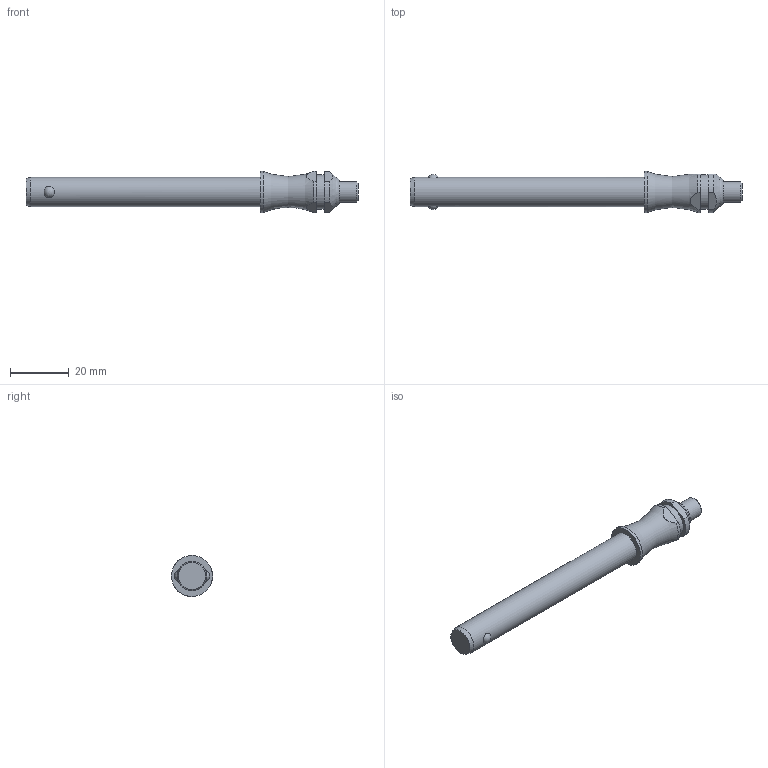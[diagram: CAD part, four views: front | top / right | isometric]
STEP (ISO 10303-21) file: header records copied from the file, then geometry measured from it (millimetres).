
FILE_DESCRIPTION( ( 'STEP AP203' ), '1' );
FILE_NAME( 'C:/Temp/Ganter_Step_05_03_2020/data/3_1/gn113_3/Stainless Steel-Ball lock pin GN 113.3-10-70 (deactivated).stp', '2020-03-12T08:18:36', ( 'License CC BY-ND 4.0' ), ( 'CADENAS' ), ' ', 'PARTsolutions', ' ' );
FILE_SCHEMA( ( 'CONFIG_CONTROL_DESIGN' ) );
Length unit declared in the file: millimetre
Products named in the file (1): _Stainless Steel-Ball lock pin GN 113.3-10-70 (deactivated)
Bounding box: 112.9 x 14 x 14 mm (x, y, z)
Volume: 9477.2 mm3; surface area: 3959.7 mm2
Topology: 1 solids, 1 shells, 28 faces, 60 edges, 39 vertices
Faces by surface type: plane 11, cylinder 10, cone 3, torus 2, sphere 2
Full cylindrical faces by diameter (mm): 7 x1, 10 x1, 11.6 x1, 14 x1
Entity records: 940 total; most frequent: CARTESIAN_POINT 327, DIRECTION 122, ORIENTED_EDGE 98, AXIS2_PLACEMENT_3D 52, EDGE_CURVE 49, EDGE_LOOP 42, VERTEX_POINT 37, FACE_OUTER_BOUND 34
